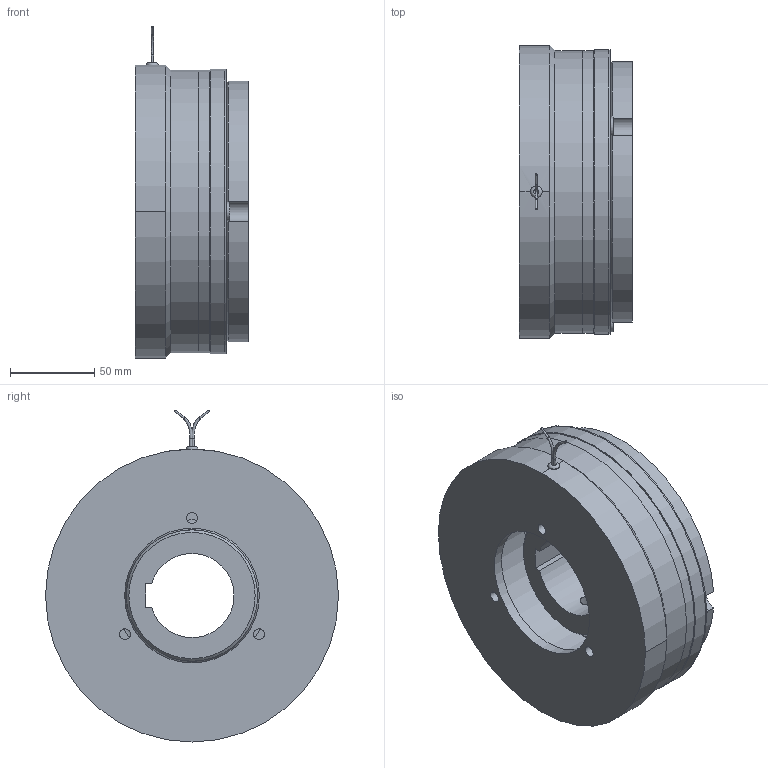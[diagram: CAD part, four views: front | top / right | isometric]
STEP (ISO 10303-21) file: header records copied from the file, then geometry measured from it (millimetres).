
FILE_DESCRIPTION(/* description */ (''),/* implementation_level */ '2;1');
FILE_NAME(/* name */ 'X:\INVENTOR\DISEGNI\08_Freni_Friz_Elettmag_Monodisco\08_28 EMFL_DF\EMFL_DF STEP\08_28_170_13 EMFL170_DF-C-MI@STEP.stp',/* time_stamp */ '2018-04-23T09:50:20+02:00',/* author */ ('stefano'),/* organization */ (''),/* preprocessor_version */ 'ST-DEVELOPER v17',/* originating_system */ 'Autodesk Inventor 2018',/* authorisation */ '');
FILE_SCHEMA (('AUTOMOTIVE_DESIGN { 1 0 10303 214 3 1 1 }'));
Length unit declared in the file: millimetre
Products named in the file (1): 08_28_170_13 EMFL170_DF-C-MI_Substitute_1
Bounding box: 67.2 x 174 x 197.22 mm (x, y, z)
Volume: 1007137.7 mm3; surface area: 174542 mm2
Topology: 2 solids, 2 shells, 254 faces, 755 edges, 508 vertices
Faces by surface type: cylinder 143, plane 81, cone 23, torus 5, bspline 2
Full cylindrical faces by diameter (mm): 1.154 x2, 1.5 x1, 6 x4, 6.5 x3, 8.376 x2, 10 x3, 11 x9, 12 x3, 78 x1, 80 x1, 104 x2, 105 x1, 122 x1, 155 x1, 168 x2, 169 x2
Entity records: 9641 total; most frequent: CARTESIAN_POINT 2029, DIRECTION 1695, ORIENTED_EDGE 1500, EDGE_CURVE 750, AXIS2_PLACEMENT_3D 741, VERTEX_POINT 509, CIRCLE 488, EDGE_LOOP 332
